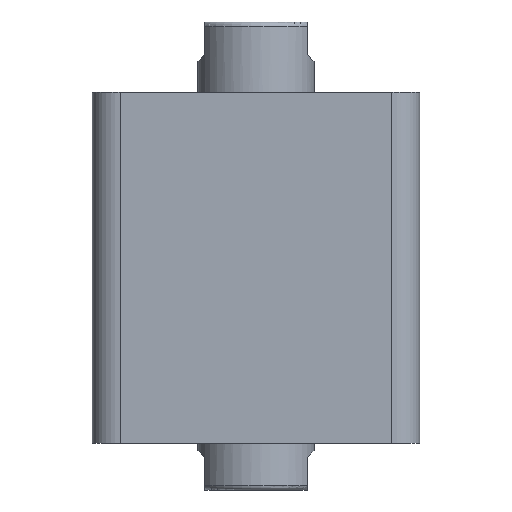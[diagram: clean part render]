
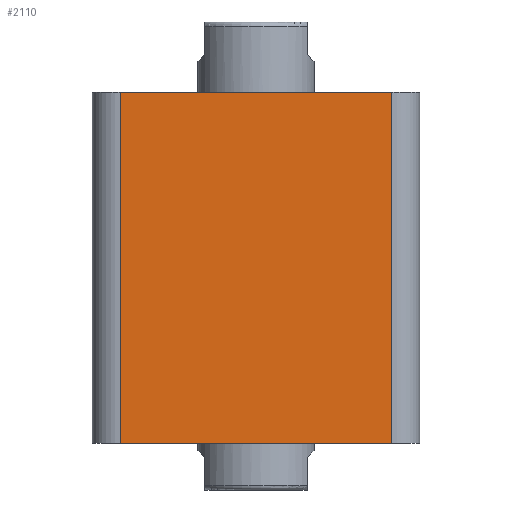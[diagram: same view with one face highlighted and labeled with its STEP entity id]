
A CAD part, front view. The second image highlights one B-rep face of the part: STEP entity #2110.
In plain terms, the highlighted planar face has unit normal (0, -1, 0).
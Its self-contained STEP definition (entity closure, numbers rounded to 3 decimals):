
#210 = VERTEX_POINT ( 'NONE', #250 ) ;
#250 = CARTESIAN_POINT ( 'NONE',  ( 29., -35., 0. ) ) ;
#273 = CARTESIAN_POINT ( 'NONE',  ( 29., -35., 75. ) ) ;
#317 = CARTESIAN_POINT ( 'NONE',  ( -29., -35., 0. ) ) ;
#325 = CARTESIAN_POINT ( 'NONE',  ( -29., -35., 75. ) ) ;
#360 = VERTEX_POINT ( 'NONE', #325 ) ;
#363 = VERTEX_POINT ( 'NONE', #273 ) ;
#381 = VERTEX_POINT ( 'NONE', #317 ) ;
#659 = LINE ( 'NONE', #1331, #672 ) ;
#665 = LINE ( 'NONE', #1341, #668 ) ;
#667 = LINE ( 'NONE', #1343, #670 ) ;
#668 = VECTOR ( 'NONE', #1342, 1000. ) ;
#670 = VECTOR ( 'NONE', #1344, 1000. ) ;
#671 = LINE ( 'NONE', #1346, #674 ) ;
#672 = VECTOR ( 'NONE', #1345, 1000. ) ;
#674 = VECTOR ( 'NONE', #1347, 1000. ) ;
#781 = EDGE_LOOP ( 'NONE', ( #1692, #1691, #3037, #3036 ) ) ;
#952 = FACE_OUTER_BOUND ( 'NONE', #781, .T. ) ;
#1331 = CARTESIAN_POINT ( 'NONE',  ( -35., -35., 0. ) ) ;
#1341 = CARTESIAN_POINT ( 'NONE',  ( -35., -35., 75. ) ) ;
#1342 = DIRECTION ( 'NONE',  ( 1., 0., 0. ) ) ;
#1343 = CARTESIAN_POINT ( 'NONE',  ( -29., -35., 75. ) ) ;
#1344 = DIRECTION ( 'NONE',  ( 0., 0., -1. ) ) ;
#1345 = DIRECTION ( 'NONE',  ( 1., 0., 0. ) ) ;
#1346 = CARTESIAN_POINT ( 'NONE',  ( 29., -35., 75. ) ) ;
#1347 = DIRECTION ( 'NONE',  ( 0., 0., 1. ) ) ;
#1691 = ORIENTED_EDGE ( 'NONE', *, *, #2318, .T. ) ;
#1692 = ORIENTED_EDGE ( 'NONE', *, *, #2317, .F. ) ;
#2110 = ADVANCED_FACE ( 'NONE', ( #952 ), #2614, .F. ) ;
#2317 = EDGE_CURVE ( 'NONE', #360, #363, #665, .T. ) ;
#2318 = EDGE_CURVE ( 'NONE', #360, #381, #667, .T. ) ;
#2319 = EDGE_CURVE ( 'NONE', #381, #210, #659, .T. ) ;
#2320 = EDGE_CURVE ( 'NONE', #210, #363, #671, .T. ) ;
#2610 = CARTESIAN_POINT ( 'NONE',  ( -35., -35., 75. ) ) ;
#2614 = PLANE ( 'NONE',  #2926 ) ;
#2616 = DIRECTION ( 'NONE',  ( 0., 1., 0. ) ) ;
#2617 = DIRECTION ( 'NONE',  ( 0., 0., 1. ) ) ;
#2926 = AXIS2_PLACEMENT_3D ( 'NONE', #2610, #2616, #2617 ) ;
#3036 = ORIENTED_EDGE ( 'NONE', *, *, #2320, .T. ) ;
#3037 = ORIENTED_EDGE ( 'NONE', *, *, #2319, .T. ) ;
